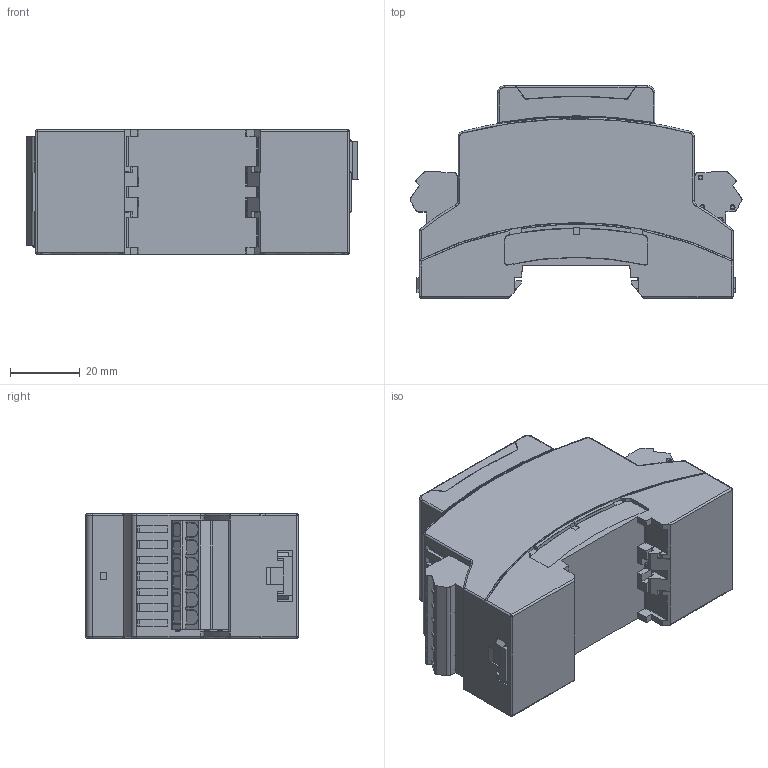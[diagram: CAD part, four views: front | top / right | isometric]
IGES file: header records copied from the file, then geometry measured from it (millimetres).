
Start section: SolidWorks IGES file using analytic representation for surfaces
Global section: file name: C:\Users\Public\HAOSENSOFTWARE\YFTSolidWorksArasPLM-V3.1.1-2023-beta\SaveAs_files\9C1-4547687-000-00.IGS; native system: SolidWorks 2023; preprocessor: SolidWorks 2023; author: P.SACHSENWEGER; date: 250616.164710; units: millimetre
Bounding box: 94.9 x 60.7 x 35.6 mm (x, y, z)
Surface area: 24986.6 mm2 (no closed solid volume)
Topology: 0 solids, 0 shells, 1216 faces, 9178 edges, 9171 vertices
Faces by surface type: bspline 961, revolution 255
